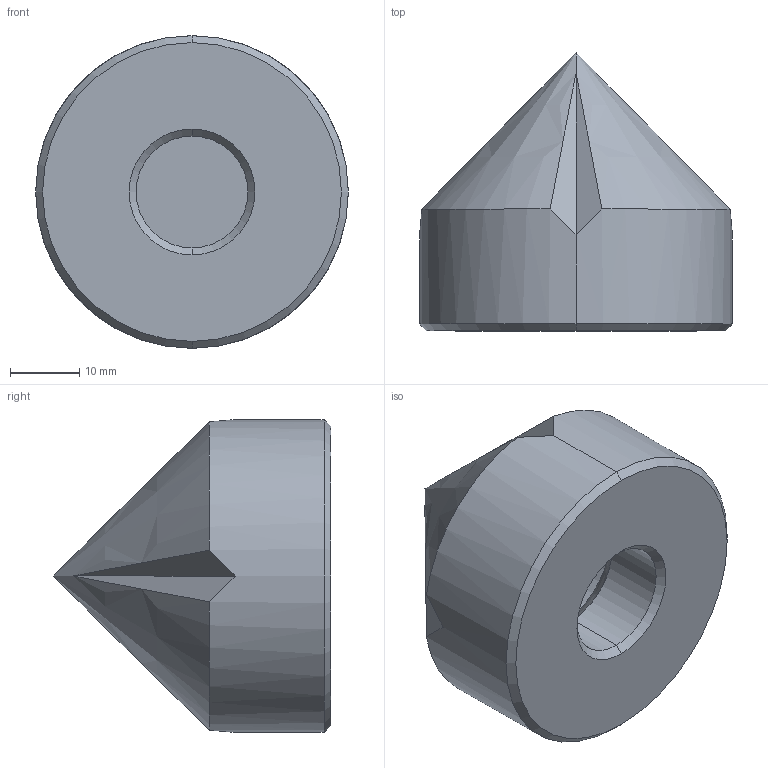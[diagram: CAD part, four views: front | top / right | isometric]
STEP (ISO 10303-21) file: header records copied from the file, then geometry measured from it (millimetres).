
FILE_DESCRIPTION (( 'STEP AP203' ), '1' );
FILE_NAME ('160670.step', '2014-08-11T16:16:21', ( 'User' ), ( '' ), 'SwSTEP 2.0', 'SolidWorks 2014', '' );
FILE_SCHEMA (( 'CONFIG_CONTROL_DESIGN' ));
Length unit declared in the file: millimetre
Products named in the file (1): 160670
Bounding box: 45 x 40 x 45 mm (x, y, z)
Volume: 32938.7 mm3; surface area: 7821.1 mm2
Topology: 1 solids, 1 shells, 24 faces, 54 edges, 31 vertices
Faces by surface type: plane 10, cone 8, cylinder 6
Entity records: 779 total; most frequent: CARTESIAN_POINT 204, ORIENTED_EDGE 104, DIRECTION 104, EDGE_CURVE 52, AXIS2_PLACEMENT_3D 43, VERTEX_POINT 31, EDGE_LOOP 25, ADVANCED_FACE 24
